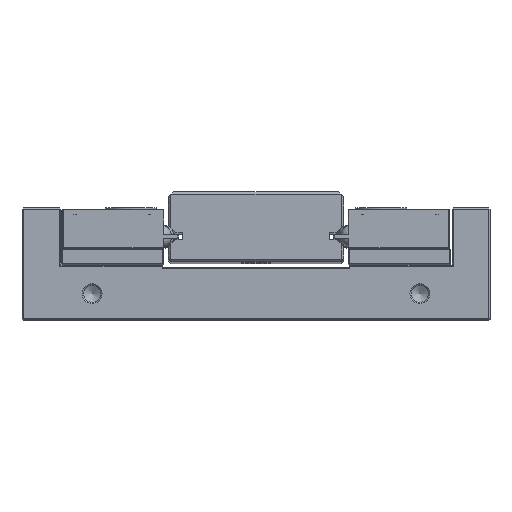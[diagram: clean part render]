
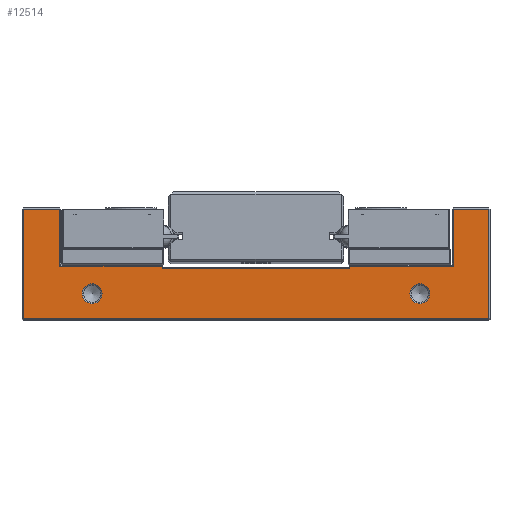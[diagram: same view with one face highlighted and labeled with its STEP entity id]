
A CAD part, top view. The second image highlights one B-rep face of the part: STEP entity #12514.
In plain terms, the highlighted planar face has unit normal (0, 0, 1).
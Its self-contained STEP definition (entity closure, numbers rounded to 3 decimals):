
#430=FACE_BOUND('',#2245,.T.);
#431=FACE_BOUND('',#2246,.T.);
#853=PLANE('',#13613);
#1469=FACE_OUTER_BOUND('',#2244,.T.);
#2244=EDGE_LOOP('',(#10339,#10340,#10341,#10342,#10343,#10344,#10345,#10346,
#10347,#10348,#10349,#10350));
#2245=EDGE_LOOP('',(#10351));
#2246=EDGE_LOOP('',(#10352));
#3240=LINE('',#20990,#4279);
#3278=LINE('',#21109,#4317);
#3279=LINE('',#21112,#4318);
#3281=LINE('',#21116,#4320);
#3282=LINE('',#21118,#4321);
#3283=LINE('',#21120,#4322);
#3284=LINE('',#21122,#4323);
#3285=LINE('',#21124,#4324);
#3286=LINE('',#21126,#4325);
#3287=LINE('',#21128,#4326);
#3288=LINE('',#21129,#4327);
#3289=LINE('',#21130,#4328);
#4279=VECTOR('',#16223,10.);
#4317=VECTOR('',#16353,10.);
#4318=VECTOR('',#16356,10.);
#4320=VECTOR('',#16360,10.);
#4321=VECTOR('',#16361,10.);
#4322=VECTOR('',#16362,10.);
#4323=VECTOR('',#16363,10.);
#4324=VECTOR('',#16364,10.);
#4325=VECTOR('',#16365,10.);
#4326=VECTOR('',#16366,10.);
#4327=VECTOR('',#16367,10.);
#4328=VECTOR('',#16368,10.);
#4867=CIRCLE('',#13614,3.824);
#4868=CIRCLE('',#13615,3.824);
#5803=VERTEX_POINT('',#20987);
#5804=VERTEX_POINT('',#20989);
#5838=VERTEX_POINT('',#21105);
#5839=VERTEX_POINT('',#21107);
#5840=VERTEX_POINT('',#21111);
#5841=VERTEX_POINT('',#21115);
#5842=VERTEX_POINT('',#21117);
#5843=VERTEX_POINT('',#21119);
#5844=VERTEX_POINT('',#21121);
#5845=VERTEX_POINT('',#21123);
#5846=VERTEX_POINT('',#21125);
#5847=VERTEX_POINT('',#21127);
#5848=VERTEX_POINT('',#21131);
#5849=VERTEX_POINT('',#21133);
#7342=EDGE_CURVE('',#5804,#5803,#3240,.T.);
#7402=EDGE_CURVE('',#5839,#5838,#3278,.T.);
#7403=EDGE_CURVE('',#5840,#5838,#3279,.T.);
#7405=EDGE_CURVE('',#5841,#5839,#3281,.T.);
#7406=EDGE_CURVE('',#5842,#5841,#3282,.T.);
#7407=EDGE_CURVE('',#5843,#5842,#3283,.T.);
#7408=EDGE_CURVE('',#5844,#5843,#3284,.T.);
#7409=EDGE_CURVE('',#5845,#5844,#3285,.T.);
#7410=EDGE_CURVE('',#5846,#5845,#3286,.T.);
#7411=EDGE_CURVE('',#5847,#5846,#3287,.T.);
#7412=EDGE_CURVE('',#5804,#5847,#3288,.T.);
#7413=EDGE_CURVE('',#5840,#5803,#3289,.T.);
#7414=EDGE_CURVE('',#5848,#5848,#4867,.T.);
#7415=EDGE_CURVE('',#5849,#5849,#4868,.T.);
#10339=ORIENTED_EDGE('',*,*,#7402,.F.);
#10340=ORIENTED_EDGE('',*,*,#7405,.F.);
#10341=ORIENTED_EDGE('',*,*,#7406,.F.);
#10342=ORIENTED_EDGE('',*,*,#7407,.F.);
#10343=ORIENTED_EDGE('',*,*,#7408,.F.);
#10344=ORIENTED_EDGE('',*,*,#7409,.F.);
#10345=ORIENTED_EDGE('',*,*,#7410,.F.);
#10346=ORIENTED_EDGE('',*,*,#7411,.F.);
#10347=ORIENTED_EDGE('',*,*,#7412,.F.);
#10348=ORIENTED_EDGE('',*,*,#7342,.T.);
#10349=ORIENTED_EDGE('',*,*,#7413,.F.);
#10350=ORIENTED_EDGE('',*,*,#7403,.T.);
#10351=ORIENTED_EDGE('',*,*,#7414,.F.);
#10352=ORIENTED_EDGE('',*,*,#7415,.F.);
#12514=ADVANCED_FACE('',(#1469,#430,#431),#853,.T.);
#13613=AXIS2_PLACEMENT_3D('',#21114,#16358,#16359);
#13614=AXIS2_PLACEMENT_3D('',#21132,#16369,#16370);
#13615=AXIS2_PLACEMENT_3D('',#21134,#16371,#16372);
#16223=DIRECTION('',(0.,-1.,0.));
#16353=DIRECTION('',(1.,0.,0.));
#16356=DIRECTION('',(0.,1.,0.));
#16358=DIRECTION('center_axis',(0.,0.,
1.));
#16359=DIRECTION('ref_axis',(1.,0.,0.));
#16360=DIRECTION('',(0.,-1.,0.));
#16361=DIRECTION('',(1.,0.,0.));
#16362=DIRECTION('',(0.,1.,0.));
#16363=DIRECTION('',(-1.,0.,0.));
#16364=DIRECTION('',(0.,-1.,0.));
#16365=DIRECTION('',(1.,0.,0.));
#16366=DIRECTION('',(0.,1.,0.));
#16367=DIRECTION('',(1.,0.,0.));
#16368=DIRECTION('',(1.,0.,0.));
#16369=DIRECTION('center_axis',(0.,0.,
1.));
#16370=DIRECTION('ref_axis',(-1.,0.,0.));
#16371=DIRECTION('center_axis',(0.,0.,
1.));
#16372=DIRECTION('ref_axis',(-1.,0.,0.));
#20987=CARTESIAN_POINT('',(27.11,-21.38,59.754));
#20989=CARTESIAN_POINT('',(27.11,-20.58,59.754));
#20990=CARTESIAN_POINT('',(27.11,-20.08,59.754));
#21105=CARTESIAN_POINT('',(-44.89,-20.58,59.754));
#21107=CARTESIAN_POINT('',(-84.39,-20.58,59.754));
#21109=CARTESIAN_POINT('',(-26.89,-20.58,59.754));
#21111=CARTESIAN_POINT('',(-44.89,-21.38,59.754));
#21112=CARTESIAN_POINT('',(-44.89,-20.88,59.754));
#21114=CARTESIAN_POINT('Origin',(-8.89,-19.58,59.754));
#21115=CARTESIAN_POINT('',(-84.39,1.42,59.754));
#21116=CARTESIAN_POINT('',(-84.39,-19.83,59.754));
#21117=CARTESIAN_POINT('',(-98.39,1.42,59.754));
#21118=CARTESIAN_POINT('',(-46.39,1.42,59.754));
#21119=CARTESIAN_POINT('',(-98.39,-40.58,59.754));
#21120=CARTESIAN_POINT('',(-98.39,-8.83,59.754));
#21121=CARTESIAN_POINT('',(80.61,-40.58,59.754));
#21122=CARTESIAN_POINT('',(-53.89,-40.58,59.754));
#21123=CARTESIAN_POINT('',(80.61,1.42,59.754));
#21124=CARTESIAN_POINT('',(80.61,-30.33,59.754));
#21125=CARTESIAN_POINT('',(67.11,1.42,59.754));
#21126=CARTESIAN_POINT('',(36.11,1.42,59.754));
#21127=CARTESIAN_POINT('',(67.11,-20.58,59.754));
#21128=CARTESIAN_POINT('',(67.11,-8.83,59.754));
#21129=CARTESIAN_POINT('',(28.86,-20.58,59.754));
#21130=CARTESIAN_POINT('',(9.11,-21.38,59.754));
#21131=CARTESIAN_POINT('',(57.933,-31.08,59.754));
#21132=CARTESIAN_POINT('Origin',(54.11,-31.08,59.754));
#21133=CARTESIAN_POINT('',(-68.067,-31.08,59.754));
#21134=CARTESIAN_POINT('Origin',(-71.89,-31.08,59.754));
